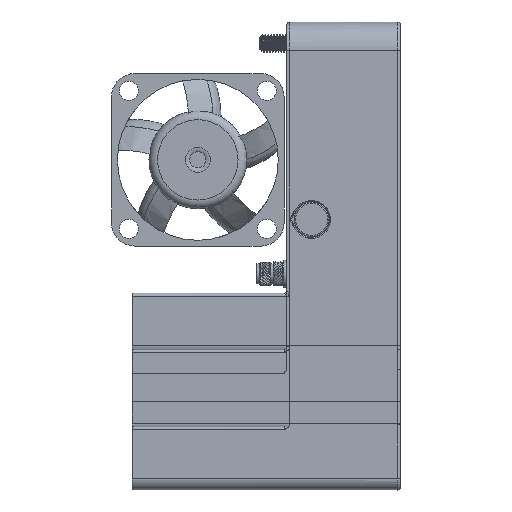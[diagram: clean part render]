
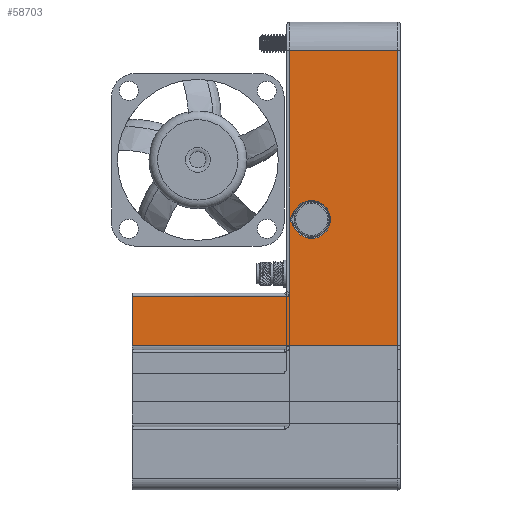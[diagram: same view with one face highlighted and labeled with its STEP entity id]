
A CAD part, left-side view. The second image highlights one B-rep face of the part: STEP entity #58703.
In plain terms, the highlighted planar face has unit normal (-1, 0, 0).
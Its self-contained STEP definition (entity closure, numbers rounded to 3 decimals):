
#3564=PLANE('',#62488);
#4613=FACE_OUTER_BOUND('',#8147,.T.);
#8147=EDGE_LOOP('',(#38829,#38830,#38831,#38832,#38833,#38834,#38835,#38836,
#38837,#38838));
#11843=LINE('',#86657,#15955);
#11844=LINE('',#86663,#15956);
#11846=LINE('',#86670,#15958);
#11858=LINE('',#86698,#15970);
#11874=LINE('',#86887,#15986);
#11875=LINE('',#86890,#15987);
#11876=LINE('',#86893,#15988);
#11877=LINE('',#86895,#15989);
#11878=LINE('',#86896,#15990);
#15955=VECTOR('',#69247,10.);
#15956=VECTOR('',#69252,10.);
#15958=VECTOR('',#69260,10.);
#15970=VECTOR('',#69284,10.);
#15986=VECTOR('',#69342,10.);
#15987=VECTOR('',#69345,10.);
#15988=VECTOR('',#69348,10.);
#15989=VECTOR('',#69349,10.);
#15990=VECTOR('',#69350,10.);
#20047=CIRCLE('',#62489,3.3);
#23341=VERTEX_POINT('',#86624);
#23346=VERTEX_POINT('',#86656);
#23348=VERTEX_POINT('',#86660);
#23349=VERTEX_POINT('',#86662);
#23351=VERTEX_POINT('',#86668);
#23361=VERTEX_POINT('',#86696);
#23380=VERTEX_POINT('',#86868);
#23385=VERTEX_POINT('',#86889);
#23386=VERTEX_POINT('',#86891);
#23387=VERTEX_POINT('',#86894);
#29256=EDGE_CURVE('',#23341,#23346,#11843,.T.);
#29259=EDGE_CURVE('',#23348,#23349,#11844,.T.);
#29263=EDGE_CURVE('',#23351,#23341,#11846,.T.);
#29277=EDGE_CURVE('',#23361,#23351,#11858,.T.);
#29314=EDGE_CURVE('',#23349,#23380,#11874,.T.);
#29315=EDGE_CURVE('',#23385,#23348,#11875,.T.);
#29316=EDGE_CURVE('',#23386,#23385,#20047,.T.);
#29317=EDGE_CURVE('',#23346,#23386,#11876,.T.);
#29318=EDGE_CURVE('',#23387,#23361,#11877,.T.);
#29319=EDGE_CURVE('',#23380,#23387,#11878,.T.);
#38829=ORIENTED_EDGE('',*,*,#29259,.F.);
#38830=ORIENTED_EDGE('',*,*,#29315,.F.);
#38831=ORIENTED_EDGE('',*,*,#29316,.F.);
#38832=ORIENTED_EDGE('',*,*,#29317,.F.);
#38833=ORIENTED_EDGE('',*,*,#29256,.F.);
#38834=ORIENTED_EDGE('',*,*,#29263,.F.);
#38835=ORIENTED_EDGE('',*,*,#29277,.F.);
#38836=ORIENTED_EDGE('',*,*,#29318,.F.);
#38837=ORIENTED_EDGE('',*,*,#29319,.F.);
#38838=ORIENTED_EDGE('',*,*,#29314,.F.);
#58703=ADVANCED_FACE('',(#4613),#3564,.T.);
#62488=AXIS2_PLACEMENT_3D('',#86888,#69343,#69344);
#62489=AXIS2_PLACEMENT_3D('',#86892,#69346,#69347);
#69247=DIRECTION('',(0.,0.,1.));
#69252=DIRECTION('',(0.,0.,1.));
#69260=DIRECTION('',(0.,-1.,0.));
#69284=DIRECTION('',(0.,0.,1.));
#69342=DIRECTION('',(0.,-1.,0.));
#69343=DIRECTION('center_axis',(-1.,0.,
0.));
#69344=DIRECTION('ref_axis',(0.,0.,-1.));
#69345=DIRECTION('',(0.,0.508,-0.861));
#69346=DIRECTION('center_axis',(-1.,0.,
0.));
#69347=DIRECTION('ref_axis',(0.,-1.,0.));
#69348=DIRECTION('',(0.,-0.508,-0.861));
#69349=DIRECTION('',(0.,1.,0.));
#69350=DIRECTION('',(0.,0.,-1.));
#86624=CARTESIAN_POINT('',(104.,109.557,19.003));
#86656=CARTESIAN_POINT('',(104.,109.557,32.268));
#86657=CARTESIAN_POINT('',(104.,109.557,42.44));
#86660=CARTESIAN_POINT('',(104.,109.557,32.41));
#86662=CARTESIAN_POINT('',(104.,109.557,61.7));
#86663=CARTESIAN_POINT('',(104.,109.557,42.44));
#86668=CARTESIAN_POINT('',(104.,137.007,19.003));
#86670=CARTESIAN_POINT('',(104.,109.532,19.003));
#86696=CARTESIAN_POINT('',(104.,137.007,10.443));
#86698=CARTESIAN_POINT('',(104.,137.007,10.443));
#86868=CARTESIAN_POINT('',(104.,90.807,61.7));
#86887=CARTESIAN_POINT('',(104.,109.057,61.7));
#86888=CARTESIAN_POINT('Origin',(104.,109.057,67.7));
#86889=CARTESIAN_POINT('',(104.,108.608,34.017));
#86890=CARTESIAN_POINT('',(104.,101.758,45.619));
#86891=CARTESIAN_POINT('',(104.,108.608,30.661));
#86892=CARTESIAN_POINT('Origin',(104.,105.767,32.339));
#86893=CARTESIAN_POINT('',(104.,116.774,44.492));
#86894=CARTESIAN_POINT('',(104.,90.807,10.443));
#86895=CARTESIAN_POINT('',(104.,130.007,10.443));
#86896=CARTESIAN_POINT('',(104.,90.807,57.579));
